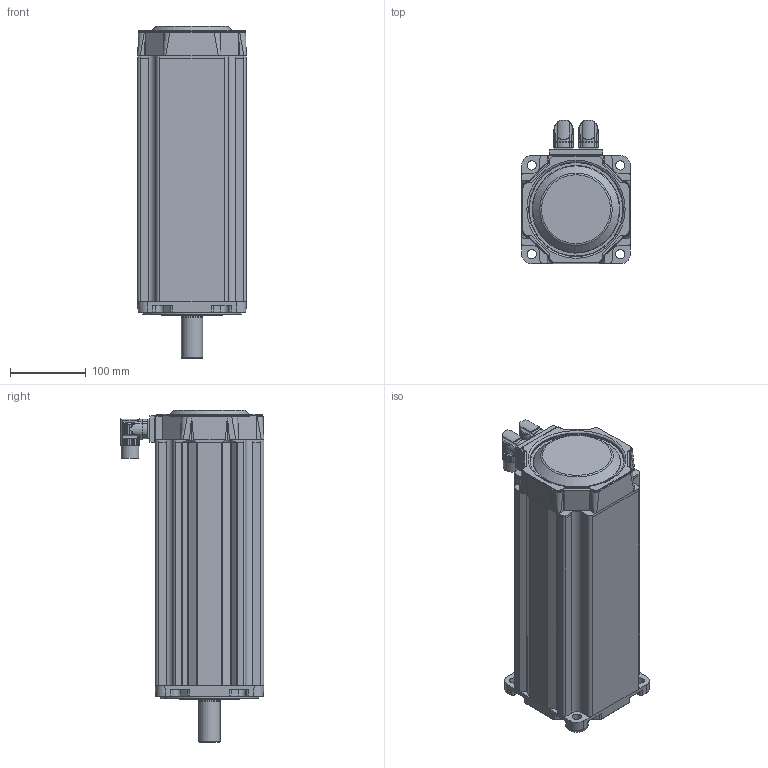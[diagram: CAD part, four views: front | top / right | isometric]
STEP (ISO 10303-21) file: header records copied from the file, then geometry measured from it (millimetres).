
FILE_DESCRIPTION((''),'2;1');
FILE_NAME('C:\Documents and Settings\jevans\My Documents\Engineering Projects\MPJ\MPJ1426XXX_NPSB.stp','2007-05-02T10:45:22',('jevans'),(''),'Autodesk Inventor 11','Autodesk Inventor 11','');
FILE_SCHEMA(('AUTOMOTIVE_DESIGN { 1 0 10303 214 1 1 1 1 }'));
Length unit declared in the file: inch
Products named in the file (4): MPJ1426XXX_NPSB; MPP142_MOTOR_1; MPP142_MOTOR_2; MPP142_MOTOR_3
Assembly tree (3 placements, depth 2):
  MPJ1426XXX_NPSB
    MPP142_MOTOR_1
    MPP142_MOTOR_2
    MPP142_MOTOR_3
Bounding box: 142.75 x 188.8 x 436.88 mm (x, y, z)
Volume: 6625591.3 mm3; surface area: 319502.3 mm2
Topology: 3 solids, 3 shells, 893 faces, 2263 edges, 1420 vertices
Faces by surface type: cylinder 401, plane 283, bspline 146, cone 39, torus 22, sphere 2
Full cylindrical faces by diameter (mm): 0.178 x1, 1.143 x17, 2.032 x6, 2.794 x2, 6.401 x8, 8.382 x1, 12.217 x4, 19.05 x2, 19.685 x2, 22.86 x2, 27.645 x1, 28.001 x1, 29.921 x1, 29.997 x1, 36.83 x1, 55.88 x1, 66.04 x1, 71.526 x1, 72.009 x1, 72.034 x2, 76.352 x1, 80.95 x1, 124.46 x1, 129.997 x1
Entity records: 34284 total; most frequent: CARTESIAN_POINT 13913, ORIENTED_EDGE 4310, DIRECTION 3967, EDGE_CURVE 2155, AXIS2_PLACEMENT_3D 1520, VERTEX_POINT 1398, EDGE_LOOP 1041, VECTOR 927
